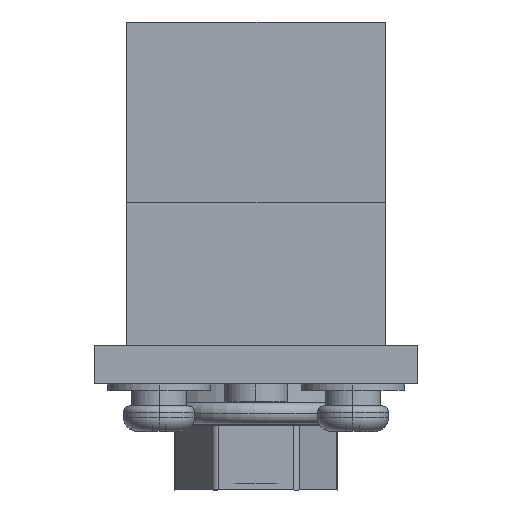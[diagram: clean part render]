
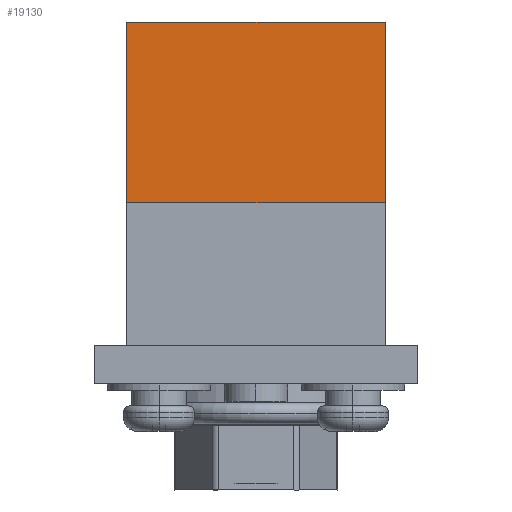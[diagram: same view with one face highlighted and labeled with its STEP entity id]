
A CAD part, left-side view. The second image highlights one B-rep face of the part: STEP entity #19130.
In plain terms, the highlighted planar face has unit normal (-1, 0, 0).
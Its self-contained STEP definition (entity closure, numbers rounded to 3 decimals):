
#17600=CARTESIAN_POINT('',(-27.488,66.46,28.));
#17610=VERTEX_POINT('',#17600);
#17640=CARTESIAN_POINT('',(-27.488,66.46,28.));
#17650=DIRECTION('',(0.,0.,-1.));
#17660=VECTOR('',#17650,1.);
#17670=LINE('',#17640,#17660);
#17680=CARTESIAN_POINT('',(-27.488,66.46,14.));
#17690=VERTEX_POINT('',#17680);
#17700=EDGE_CURVE('',#17610,#17690,#17670,.T.);
#18470=CARTESIAN_POINT('',(-27.488,46.46,28.));
#18480=VERTEX_POINT('',#18470);
#18510=CARTESIAN_POINT('',(-27.488,46.46,28.));
#18520=DIRECTION('',(0.,1.,0.));
#18530=VECTOR('',#18520,1.);
#18540=LINE('',#18510,#18530);
#18550=EDGE_CURVE('',#18480,#17610,#18540,.T.);
#18900=CARTESIAN_POINT('',(-27.488,66.46,28.));
#18910=DIRECTION('',(1.,0.,0.));
#18920=DIRECTION('',(0.,0.,1.));
#18930=AXIS2_PLACEMENT_3D('',#18900,#18910,#18920);
#18940=PLANE('',#18930);
#18950=ORIENTED_EDGE('',*,*,#17700,.T.);
#18960=ORIENTED_EDGE('',*,*,#18550,.T.);
#18970=CARTESIAN_POINT('',(-27.488,46.46,28.));
#18980=DIRECTION('',(0.,0.,-1.));
#18990=VECTOR('',#18980,1.);
#19000=LINE('',#18970,#18990);
#19010=CARTESIAN_POINT('',(-27.488,46.46,14.));
#19020=VERTEX_POINT('',#19010);
#19030=EDGE_CURVE('',#18480,#19020,#19000,.T.);
#19040=ORIENTED_EDGE('',*,*,#19030,.F.);
#19050=CARTESIAN_POINT('',(-27.488,46.46,14.));
#19060=DIRECTION('',(0.,1.,0.));
#19070=VECTOR('',#19060,1.);
#19080=LINE('',#19050,#19070);
#19090=EDGE_CURVE('',#19020,#17690,#19080,.T.);
#19100=ORIENTED_EDGE('',*,*,#19090,.F.);
#19110=EDGE_LOOP('',(#19100,#19040,#18960,#18950));
#19120=FACE_OUTER_BOUND('',#19110,.T.);
#19130=ADVANCED_FACE('',(#19120),#18940,.F.);
